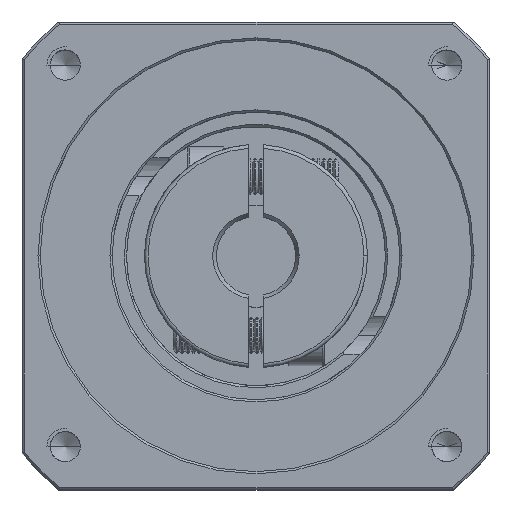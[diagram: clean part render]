
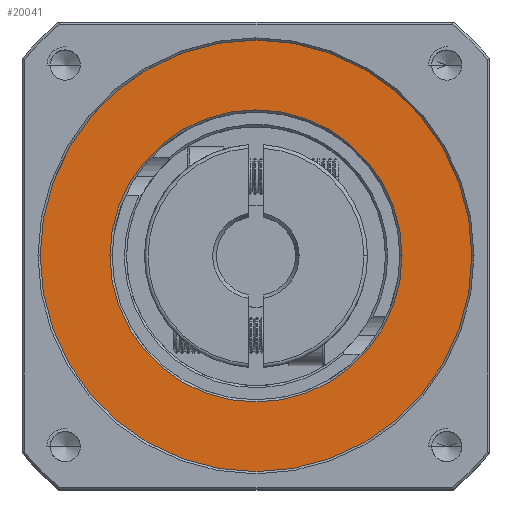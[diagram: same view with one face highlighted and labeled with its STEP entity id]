
A CAD part, top view. The second image highlights one B-rep face of the part: STEP entity #20041.
In plain terms, the highlighted planar face has unit normal (0, 0, 1).
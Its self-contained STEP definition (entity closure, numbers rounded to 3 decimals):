
#3047 = EDGE_LOOP ( 'NONE', ( #12855, #20227 ) ) ;
#3352 = CIRCLE ( 'NONE', #84682, 30. ) ;
#12670 = DIRECTION ( 'NONE',  ( 0., 0., -1. ) ) ;
#12855 = ORIENTED_EDGE ( 'NONE', *, *, #54984, .T. ) ;
#13509 = CARTESIAN_POINT ( 'NONE',  ( -81.135, 18.488, 28.781 ) ) ;
#17751 = AXIS2_PLACEMENT_3D ( 'NONE', #65251, #12670, #73978 ) ;
#19403 = CARTESIAN_POINT ( 'NONE',  ( -81.135, 18.488, 28.781 ) ) ;
#20041 = ADVANCED_FACE ( 'NONE', ( #89336, #22172 ), #88758, .T. ) ;
#20227 = ORIENTED_EDGE ( 'NONE', *, *, #110114, .T. ) ;
#22172 = FACE_OUTER_BOUND ( 'NONE', #62533, .T. ) ;
#22330 = DIRECTION ( 'NONE',  ( 1., 0., 0. ) ) ;
#27165 = ORIENTED_EDGE ( 'NONE', *, *, #81079, .T. ) ;
#27317 = CARTESIAN_POINT ( 'NONE',  ( -51.135, 18.488, 28.781 ) ) ;
#28249 = DIRECTION ( 'NONE',  ( 1., 0., 0. ) ) ;
#33680 = ORIENTED_EDGE ( 'NONE', *, *, #111581, .T. ) ;
#37668 = CARTESIAN_POINT ( 'NONE',  ( -111.135, 18.488, 28.781 ) ) ;
#38971 = CARTESIAN_POINT ( 'NONE',  ( -81.135, 18.488, 28.781 ) ) ;
#42984 = CARTESIAN_POINT ( 'NONE',  ( -101.435, 18.488, 28.781 ) ) ;
#47606 = CARTESIAN_POINT ( 'NONE',  ( -81.135, 18.488, 28.781 ) ) ;
#47827 = DIRECTION ( 'NONE',  ( 1., 0., 0. ) ) ;
#50627 = CIRCLE ( 'NONE', #17751, 20.3 ) ;
#54984 = EDGE_CURVE ( 'NONE', #63170, #66017, #78836, .T. ) ;
#56433 = DIRECTION ( 'NONE',  ( 1., 0., 0. ) ) ;
#62533 = EDGE_LOOP ( 'NONE', ( #27165, #33680 ) ) ;
#63170 = VERTEX_POINT ( 'NONE', #112670 ) ;
#65251 = CARTESIAN_POINT ( 'NONE',  ( -81.135, 18.488, 28.781 ) ) ;
#66017 = VERTEX_POINT ( 'NONE', #42984 ) ;
#69675 = AXIS2_PLACEMENT_3D ( 'NONE', #19403, #80730, #28249 ) ;
#71913 = AXIS2_PLACEMENT_3D ( 'NONE', #47606, #108534, #56433 ) ;
#73978 = DIRECTION ( 'NONE',  ( 1., 0., 0. ) ) ;
#74837 = DIRECTION ( 'NONE',  ( 0., 0., 1. ) ) ;
#75172 = VERTEX_POINT ( 'NONE', #37668 ) ;
#78225 = VERTEX_POINT ( 'NONE', #27317 ) ;
#78836 = CIRCLE ( 'NONE', #108820, 20.3 ) ;
#79715 = CIRCLE ( 'NONE', #71913, 30. ) ;
#80730 = DIRECTION ( 'NONE',  ( 0., 0., 1. ) ) ;
#81079 = EDGE_CURVE ( 'NONE', #78225, #75172, #79715, .T. ) ;
#84682 = AXIS2_PLACEMENT_3D ( 'NONE', #13509, #74837, #22330 ) ;
#88758 = PLANE ( 'NONE',  #69675 ) ;
#89336 = FACE_BOUND ( 'NONE', #3047, .T. ) ;
#100063 = DIRECTION ( 'NONE',  ( 0., 0., -1. ) ) ;
#108534 = DIRECTION ( 'NONE',  ( 0., 0., 1. ) ) ;
#108820 = AXIS2_PLACEMENT_3D ( 'NONE', #38971, #100063, #47827 ) ;
#110114 = EDGE_CURVE ( 'NONE', #66017, #63170, #50627, .T. ) ;
#111581 = EDGE_CURVE ( 'NONE', #75172, #78225, #3352, .T. ) ;
#112670 = CARTESIAN_POINT ( 'NONE',  ( -60.835, 18.488, 28.781 ) ) ;
